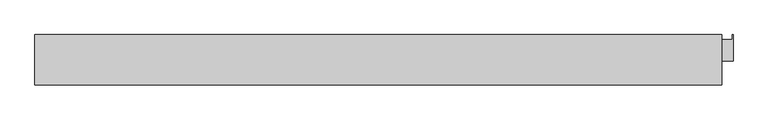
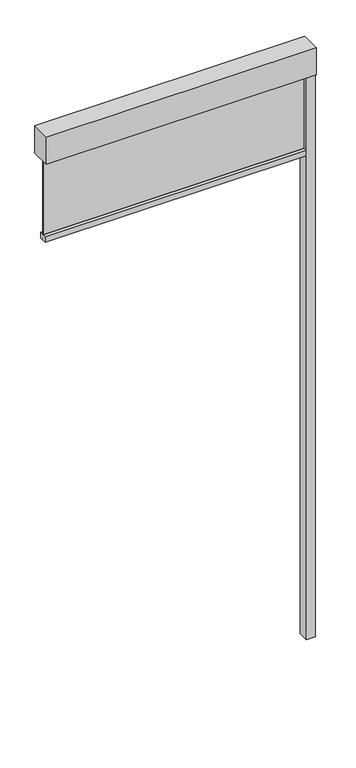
"""IFC4 building model written with IfcOpenShell, lengths in millimetres: proxy geometry, Renson_Fixscreen_Minimal_CW50_Reynaers_Middle : For Reynaers curtain wall - Middle element - Access downwards - Fabric close to the window."""

from ifc_helpers import new_model, si_unit, point, frame, frame_2d, origin, origin_with_axes, place, context, project, spatial, polyline, circle_curve, trimmed, segment, composite_curve, outline, extrude, source, transform, mapped, element, save


def generic_models_0b1c9ff1(model_context):
    return source(origin(), model_context, "Body", "SweptSolid", [
        extrude(outline(polyline([(530.0, -751.4959909), (480.0, -751.4959909), (480.0, -693.5959909), (482.0275515, -693.5959909), (482.0275515, -703.7336963), (527.9813485, -703.7336963), (527.9813485, -693.5959909), (530.0, -693.5959909), (530.0, -751.4959909)])), origin_with_axes(), (0.0, 0.0, 1.0), 3340.0),
        extrude(outline(polyline([(-995.0, -693.5959909), (505.0, -693.5959909), (505.0, -803.5959909), (-995.0, -803.5959909), (-995.0, -693.5959909)])), frame((0.0, 0.0, 3340.0), z_axis=(0.0, 0.0, 1.0), x_axis=(1.0, 0.0, 0.0)), (0.0, 0.0, 1.0), 160.0),
        extrude(outline(composite_curve([segment(polyline([(-708.5959909, 2840.0), (-749.0958874, 2840.0), (-749.0958874, 2874.1156826), (-731.9717779, 2875.0000198)]), True, "CONTINUOUS"), segment(trimmed(circle_curve(frame_2d((-731.9459909, 2874.5006852)), 0.5), [point((-731.9717779, 2875.0000198))], [point((-731.4459909, 2874.5006852))], False, "CARTESIAN"), True, "CONTINUOUS"), segment(polyline([(-731.4459909, 2874.5006852), (-731.4459909, 2873.5367989), (-732.7111292, 2873.5367989), (-731.9708257, 2869.0119223)]), True, "CONTINUOUS"), segment(trimmed(circle_curve(frame_2d((-771.4459909, 2862.5534911)), 40.0), [point((-731.9708257, 2869.0119223))], [point((-731.4459909, 2862.5534911))], False, "CARTESIAN"), True, "CONTINUOUS"), segment(polyline([(-731.4459909, 2862.5534911), (-731.4459909, 2854.5006852)]), True, "CONTINUOUS"), segment(trimmed(circle_curve(frame_2d((-729.4459909, 2854.5006852)), 2.0), [point((-731.4459909, 2854.5006852))], [point((-729.4459909, 2852.5006852))], True, "CARTESIAN"), True, "CONTINUOUS"), segment(polyline([(-729.4459909, 2852.5006852), (-727.7459909, 2852.5006852)]), True, "CONTINUOUS"), segment(trimmed(circle_curve(frame_2d((-727.7459909, 2854.5006852)), 2.0), [point((-727.7459909, 2852.5006852))], [point((-725.7459909, 2854.5006852))], True, "CARTESIAN"), True, "CONTINUOUS"), segment(polyline([(-725.7459909, 2854.5006852), (-725.7459909, 2862.5534911)]), True, "CONTINUOUS"), segment(trimmed(circle_curve(frame_2d((-685.7459909, 2862.5534911)), 40.0), [point((-725.7459909, 2862.5534911))], [point((-725.221156, 2869.0119223))], False, "CARTESIAN"), True, "CONTINUOUS"), segment(polyline([(-725.221156, 2869.0119223), (-724.4808525, 2873.5367989), (-725.7459909, 2873.5367989), (-725.7459909, 2874.5006852)]), True, "CONTINUOUS"), segment(trimmed(circle_curve(frame_2d((-725.2459909, 2874.5006852)), 0.5), [point((-725.7459909, 2874.5006852))], [point((-725.2194276, 2874.9999791))], False, "CARTESIAN"), True, "CONTINUOUS"), segment(polyline([(-725.2194276, 2874.9999791), (-708.5959909, 2874.1156826), (-708.5959909, 2840.0)]), True, "CONTINUOUS")], self_intersect=False)), frame((-970.0, 0.0, 0.0), z_axis=(1.0, 0.0, 0.0), x_axis=(0.0, 1.0, 0.0)), (0.0, 0.0, 1.0), 1450.0),
        extrude(outline(polyline([(-970.0, -730.0959909), (-970.0, -727.0959909), (480.0, -727.0959909), (480.0, -730.0959909), (-970.0, -730.0959909)])), frame((0.0, 0.0, 2852.5006852), z_axis=(0.0, 0.0, 1.0), x_axis=(1.0, 0.0, 0.0)), (0.0, 0.0, 1.0), 487.4993148),
    ])


if __name__ == "__main__":
    model = new_model("IFC4")
    model_context = context("Model", 3, world=origin())
    ifc_project = project(units=[si_unit("LENGTHUNIT", "METRE", prefix="MILLI")], contexts=[model_context])
    site = spatial("IfcSite", under=ifc_project)
    building = spatial("IfcBuilding", under=site)
    placement = place(None, origin())
    generic_models_shape = generic_models_0b1c9ff1(model_context)
    element("IfcBuildingElementProxy", 1, Name="Renson_Fixscreen_Minimal_CW50_Reynaers_Middle : For Reynaers curtain wall - Middle element - Access downwards - Fabric close to the window", ObjectType="Renson_Fixscreen_Minimal_CW50_Reynaers_Middle : For Reynaers curtain wall - Middle element - Access downwards - Fabric close to the window", at=placement, inside=building, context=model_context, shape_type="MappedRepresentation", body=[
        mapped(generic_models_shape, transform((0.0, 0.0, 0.0), x_axis=(1.0, 0.0, 0.0), y_axis=(0.0, 1.0, 0.0), z_axis=(0.0, 0.0, 1.0))),
    ])
    save(model, "model.ifc")
